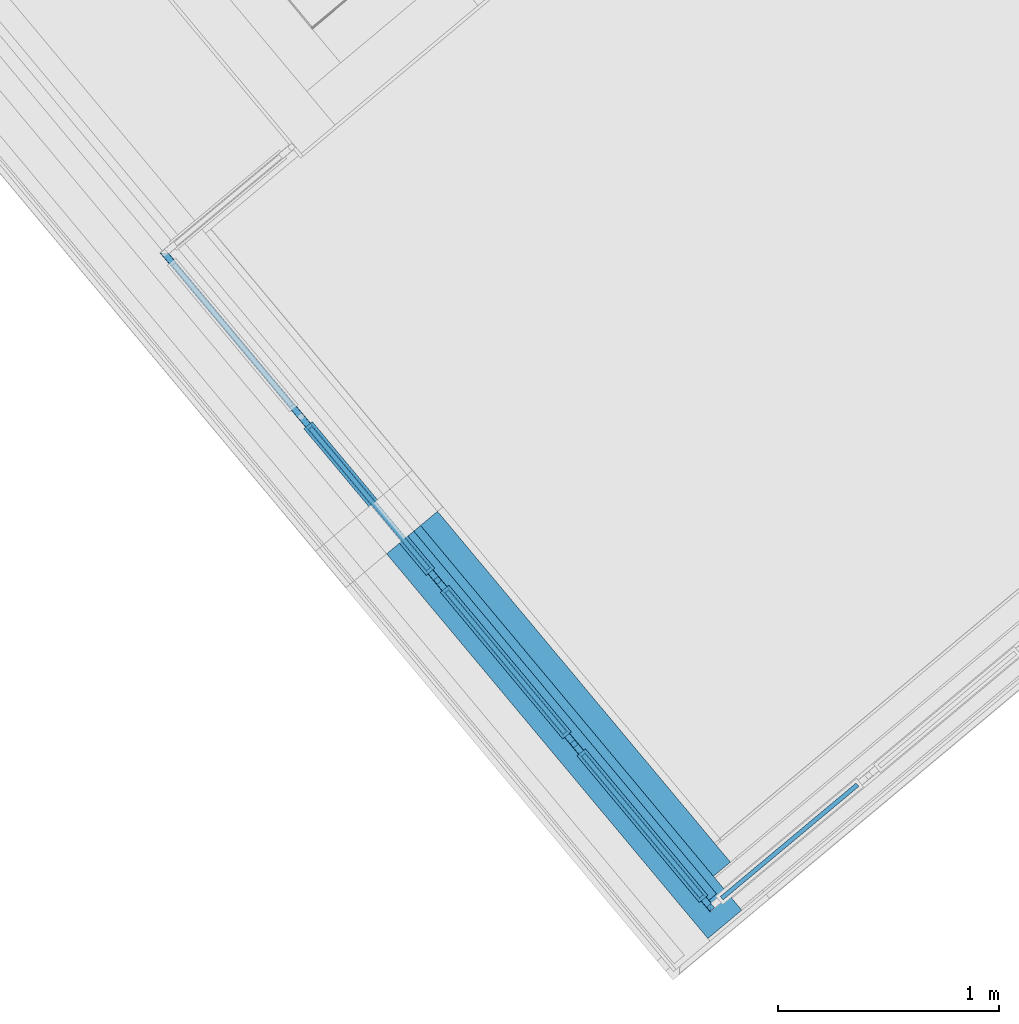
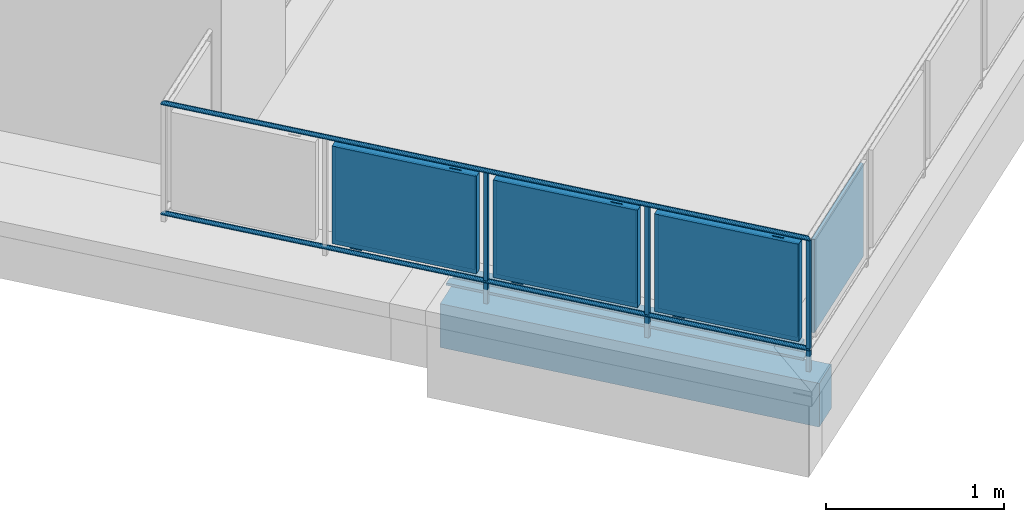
# One storey, part 17 of 61: 15 building element parts, 2 elements without a shape of their own.
"""IFC4 building model written with IfcOpenShell, lengths in metres."""

from ifc_helpers import new_model, entity, si_unit, converted_unit, derived_unit, direction, frame, origin_with_axes, place, context, subcontext, project, spatial, polygons, material, type_object, element, aggregate, save


model = new_model("IFC4")

# Units and contexts
model_context = context("Model", 3, precision=1e-05, world=origin_with_axes(), true_north=direction((0.0, 1.0)))
body_context = subcontext(model_context, "Body", "Model", "MODEL_VIEW")
ifc_project = project(units=[si_unit("LENGTHUNIT", "METRE"), si_unit("AREAUNIT", "SQUARE_METRE"), si_unit("VOLUMEUNIT", "CUBIC_METRE"), converted_unit("PLANEANGLEUNIT", "DEGREE", entity("IfcPlaneAngleMeasure", 0.0174532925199), si_unit("PLANEANGLEUNIT", "RADIAN"), dimensions=[0, 0, 0, 0, 0, 0, 0]), converted_unit("TIMEUNIT", "Year", entity("IfcTimeMeasure", 31556926.0), si_unit("TIMEUNIT", "SECOND"), dimensions=[0, 0, 1, 0, 0, 0, 0]), si_unit("MASSUNIT", "GRAM", prefix="KILO"), si_unit("THERMODYNAMICTEMPERATUREUNIT", "DEGREE_CELSIUS"), si_unit("LUMINOUSINTENSITYUNIT", "LUMEN"), si_unit("ENERGYUNIT", "JOULE", prefix="MEGA"), derived_unit("THERMALCONDUCTANCEUNIT", [(si_unit("POWERUNIT", "WATT"), 1), (si_unit("LENGTHUNIT", "METRE"), -1), (si_unit("THERMODYNAMICTEMPERATUREUNIT", "KELVIN"), -1)]), derived_unit("SPECIFICHEATCAPACITYUNIT", [(si_unit("ENERGYUNIT", "JOULE"), 1), (si_unit("MASSUNIT", "GRAM", prefix="KILO"), -1), (si_unit("THERMODYNAMICTEMPERATUREUNIT", "KELVIN"), -1)]), derived_unit("MASSDENSITYUNIT", [(si_unit("MASSUNIT", "GRAM", prefix="KILO"), 1), (si_unit("VOLUMEUNIT", "CUBIC_METRE"), -1)])], contexts=[model_context])

# Site, building, storey
site_placement = place(None, frame((-0.00153261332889, -0.00661245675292, 0.0), z_axis=(0.0, 0.0, 1.0), x_axis=(1.0, 0.0, 0.0)))
site = spatial("IfcSite", under=ifc_project, at=site_placement, Name="Gelände", CompositionType="ELEMENT")
building_placement = place(site_placement, origin_with_axes())
building = spatial("IfcBuilding", under=site, at=building_placement, Name="Gebäude", CompositionType="ELEMENT")
storey_placement = place(building_placement, frame((0.0, 0.0, 5.7), z_axis=(0.0, 0.0, 1.0), x_axis=(1.0, 0.0, 0.0)))
storey = spatial("IfcBuildingStorey", under=building, at=storey_placement, Name="DG1", CompositionType="ELEMENT", Elevation=5.7)

# Wall, building element parts
wall_type = type_object("IfcWallType", Name="Balkon Dämmung runter 574 x 610", PredefinedType="NOTDEFINED")
wall_placement = place(storey_placement, frame((-0.869246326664, 8.34153645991, -0.2), z_axis=(0.0, 0.0, 1.0), x_axis=(0.640952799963, -0.767580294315, 0.0)))
wall = element("IfcWall", 1, at=wall_placement, inside=storey, type_object=wall_type, Name="Wand-004", PredefinedType="NOTDEFINED")
ifc_material_1 = material(Name="EPS 1")
building_element_part_1_placement = place(wall_placement, origin_with_axes())
building_element_part_1 = element("IfcBuildingElementPart", 2, at=building_element_part_1_placement, material=ifc_material_1, Name="EPS 1", PredefinedType="NOTDEFINED", context=body_context, shape_type="Tessellation", body=[
    polygons([(2.06886445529, 0.199999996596, 0.33500000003), (6.64236852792e-05, 0.199999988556, 0.335000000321), (9.9635535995e-05, 0.300000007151, 0.335000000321), (2.06881889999, 0.300000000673, 0.33500000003), (2.06886445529, 0.199999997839, 0.488695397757), (2.06886445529, 0.199999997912, 0.491006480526), (2.06886445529, 0.199999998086, 0.496604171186), (2.06886445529, 0.199999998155, 0.498822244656), (2.06886445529, 0.199999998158, 0.498915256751), (2.06886445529, 0.199999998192, 0.500000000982), (2.06886445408, 0.199999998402, 0.506731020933), (2.0688644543, 0.199999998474, 0.509050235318), (2.0688644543, 0.199999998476, 0.509099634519), (2.0688644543, 0.199999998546, 0.51136132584), (2.0688644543, 0.199999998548, 0.511410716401), (2.0688644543, 0.199999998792, 0.519224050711), (2.0688644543, 0.199999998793, 0.519273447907), (2.0688644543, 0.200000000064, 0.560000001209), (6.64236890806e-05, 0.2, 0.560000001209), (9.963553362e-05, 0.3, 0.560000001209), (9.9635535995e-05, 0.300000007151, 0.488695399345), (2.068818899, 0.299999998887, 0.560000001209), (2.068818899, 0.299999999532, 0.519273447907), (2.068818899, 0.299999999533, 0.519224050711), (2.068818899, 0.299999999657, 0.511410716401), (2.068818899, 0.299999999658, 0.51136132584), (2.068818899, 0.299999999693, 0.509099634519), (2.068818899, 0.299999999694, 0.509050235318), (2.06881889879, 0.299999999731, 0.506731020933), (2.06881889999, 0.299999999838, 0.500000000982), (2.06881889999, 0.299999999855, 0.498915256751), (2.06881889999, 0.299999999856, 0.498822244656), (2.06881889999, 0.299999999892, 0.496604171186), (2.06881889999, 0.29999999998, 0.491006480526), (2.06881889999, 0.300000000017, 0.488695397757)], [[[1, 2, 3, 4]], [[1, 5, 6, 7, 8, 9, 10, 11, 12, 13, 14, 15, 16, 17, 18, 19, 2]], [[2, 19, 20, 21, 3]], [[3, 21, 20, 22, 23, 24, 25, 26, 27, 28, 29, 30, 31, 32, 33, 34, 35, 4]], [[5, 1, 4, 35]], [[6, 5, 35, 34]], [[7, 6, 34, 33]], [[8, 7, 33, 32]], [[9, 8, 32, 31]], [[10, 9, 31, 30]], [[11, 10, 30, 29]], [[12, 11, 29, 28]], [[13, 12, 28, 27]], [[14, 13, 27, 26]], [[15, 14, 26, 25]], [[16, 15, 25, 24]], [[17, 16, 24, 23]], [[18, 17, 23, 22]], [[19, 18, 22, 20]]], closed=True),
])
ifc_material_2 = material(Name="Vollholz")
building_element_part_2_placement = place(wall_placement, origin_with_axes())
building_element_part_2 = element("IfcBuildingElementPart", 3, at=building_element_part_2_placement, material=ifc_material_2, Name="Vollholz", PredefinedType="NOTDEFINED", context=body_context, shape_type="Tessellation", body=[
    polygons([(3.32118445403e-05, 0.1, 0.560000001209), (2.13905292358, 0.1, 0.560000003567), (2.13905292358, 0.1, 0.567947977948), (2.13905292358, 0.1, 0.573880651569), (2.13905292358, 0.1, 0.575576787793), (2.13905292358, 0.1, 0.575979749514), (3.32118445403e-05, 0.1, 0.575979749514), (5.3138951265e-05, 0.16, 0.560000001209), (2.1390255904, 0.160000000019, 0.560000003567), (2.13902556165, 0.160063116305, 0.567947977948), (2.13902554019, 0.160110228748, 0.573880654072), (2.13904766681, 0.11153931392, 0.575576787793), (5.31755602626e-05, 0.160110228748, 0.573880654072)], [[[1, 2, 3, 4, 5, 6, 7]], [[2, 1, 8, 9]], [[3, 2, 9, 10]], [[4, 3, 10, 11]], [[5, 4, 11, 12]], [[12, 6, 5]], [[7, 6, 12, 11, 13]], [[8, 1, 7, 13]], [[8, 13, 11, 10, 9]]], closed=True),
])
ifc_material_3 = material(Name="Stahlbeton")
building_element_part_3_placement = place(wall_placement, origin_with_axes())
building_element_part_3 = element("IfcBuildingElementPart", 4, at=building_element_part_3_placement, material=ifc_material_3, Name="Stahlbeton", PredefinedType="NOTDEFINED", context=body_context, shape_type="Tessellation", body=[
    polygons([(2.26895554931, -2.73519074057e-09, 0.500000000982), (2.26886443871, 0.199999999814, 0.500000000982), (6.64236890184e-05, 0.199999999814, 0.500000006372), (0.0, -2.73519074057e-09, 0.499999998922), (2.26886443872, 0.199999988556, 0.498915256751), (2.26895554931, -2.73519074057e-09, 0.498915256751), (2.26886443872, 0.199999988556, 0.498822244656), (2.26886443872, 0.199999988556, 0.496604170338), (2.26886443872, 0.199999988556, 0.491006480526), (2.26886443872, 0.199999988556, 0.488695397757), (2.26886443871, 0.19999999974, 0.334999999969), (6.64236852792e-05, 0.199999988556, 0.335000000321), (0.0, -2.73518985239e-09, 0.2), (6.64236891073e-05, 0.200000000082, 0.2), (2.26895554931, -2.73519074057e-09, 0.2), (2.26895554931, -2.73519074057e-09, 0.334999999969), (2.26895554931, -2.73519074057e-09, 0.488695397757), (2.26895554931, -2.73519074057e-09, 0.491006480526), (2.26895554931, -2.73519074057e-09, 0.496604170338), (2.26895554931, -2.73519074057e-09, 0.498822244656), (2.26886443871, 0.199999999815, 0.2)], [[[1, 2, 3, 4]], [[5, 2, 1, 6]], [[2, 5, 7, 8, 9, 10, 11, 12, 3]], [[13, 4, 3, 12, 14]], [[6, 1, 4, 13, 15, 16, 17, 18, 19, 20]], [[5, 6, 20, 7]], [[7, 20, 19, 8]], [[8, 19, 18, 9]], [[9, 18, 17, 10]], [[10, 17, 16, 11]], [[11, 21, 14, 12]], [[21, 15, 13, 14]], [[11, 16, 15, 21]]], closed=True),
])
aggregate(wall, [building_element_part_1, building_element_part_2, building_element_part_3])

# Space
space_placement = place(storey_placement, frame((-1.65459986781, 9.80045444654, 0.22), z_axis=(0.0, 0.0, 1.0), x_axis=(0.640908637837, -0.767617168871, 0.0)))
space = spatial("IfcSpace", under=storey, at=space_placement, CompositionType="ELEMENT", PredefinedType="NOTDEFINED")

# Railing, building element parts
railing_type = type_object("IfcRailingType", Name="Geländerart", PredefinedType="NOTDEFINED")
railing_placement = place(space_placement, frame((-0.0155551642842, 0.517171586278, 0.16), z_axis=(0.0, 0.0, 1.0), x_axis=(0.640908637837, 0.767617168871, 0.0)))
railing = element("IfcRailing", 5, at=railing_placement, inside=space, type_object=railing_type, Name="Geländer - 001", PredefinedType="NOTDEFINED")
ifc_material_4 = material(Name="Aluminium")
building_element_part_4_placement = place(railing_placement, origin_with_axes())
building_element_part_4 = element("IfcBuildingElementPart", 6, at=building_element_part_4_placement, material=ifc_material_4, Name="Aluminium", PredefinedType="NOTDEFINED", context=body_context, shape_type="Tessellation", body=[
    polygons([(1.8636712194, -3.42062701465, -0.3), (1.88286164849, -3.40460429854, -0.3), (1.88286164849, -3.40460429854, 0.82), (1.8636712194, -3.42062701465, 0.82), (1.84764850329, -3.40143658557, -0.3), (1.86683893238, -3.38541386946, -0.3), (1.86683893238, -3.38541386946, 0.82), (1.84764850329, -3.40143658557, 0.82)], [[[1, 2, 3, 4]], [[1, 5, 6, 2]], [[2, 6, 7, 3]], [[4, 3, 7, 8]], [[5, 1, 4, 8]], [[6, 5, 8, 7]]], closed=True),
])
building_element_part_5_placement = place(railing_placement, origin_with_axes())
building_element_part_5 = element("IfcBuildingElementPart", 7, at=building_element_part_5_placement, material=ifc_material_4, Name="Aluminium", PredefinedType="NOTDEFINED", context=body_context, shape_type="Tessellation", body=[
    polygons([(-0.586034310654, -0.443703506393, 0.825), (-0.586355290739, -0.443674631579, 0.827604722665), (1.86712331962, -3.38220933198, 0.827604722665), (1.86715214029, -3.38188828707, 0.825), (-0.586355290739, -0.443674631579, 0.822395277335), (-0.587308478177, -0.443588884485, 0.81986969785), (-0.588864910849, -0.443448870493, 0.8175), (-0.590977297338, -0.443258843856, 0.815358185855), (-0.593581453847, -0.443024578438, 0.813509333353), (-0.5965982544, -0.442753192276, 0.812009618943), (-0.599936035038, -0.4424529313, 0.810904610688), (-0.603493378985, -0.442132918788, 0.810227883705), (-0.607162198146, -0.441802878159, 0.81), (-0.610831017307, -0.441472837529, 0.810227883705), (-0.614388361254, -0.441152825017, 0.810904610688), (-0.617726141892, -0.440852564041, 0.812009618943), (-0.620742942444, -0.440581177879, 0.813509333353), (-0.623347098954, -0.440346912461, 0.815358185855), (-0.625459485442, -0.440156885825, 0.8175), (-0.627015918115, -0.440016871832, 0.81986969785), (-0.627969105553, -0.439931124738, 0.822395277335), (-0.628290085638, -0.439902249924, 0.825), (-0.627969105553, -0.439931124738, 0.827604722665), (-0.627015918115, -0.440016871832, 0.83013030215), (-0.625459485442, -0.440156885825, 0.8325), (-0.623347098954, -0.440346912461, 0.834641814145), (-0.620742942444, -0.440581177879, 0.836490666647), (-0.617726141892, -0.440852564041, 0.837990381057), (-0.614388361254, -0.441152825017, 0.839095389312), (-0.610831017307, -0.441472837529, 0.839772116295), (-0.607162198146, -0.441802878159, 0.84), (-0.603493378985, -0.442132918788, 0.839772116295), (-0.599936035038, -0.4424529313, 0.839095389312), (-0.5965982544, -0.442753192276, 0.837990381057), (-0.593581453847, -0.443024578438, 0.836490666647), (-0.590977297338, -0.443258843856, 0.834641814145), (-0.588864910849, -0.443448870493, 0.8325), (-0.587308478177, -0.443588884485, 0.83013030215), (1.86703773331, -3.38316271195, 0.83013030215), (1.86689798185, -3.384719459, 0.8325), (1.86670831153, -3.38683227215, 0.834641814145), (1.86647448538, -3.38943695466, 0.836490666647), (1.86620360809, -3.39245436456, 0.837990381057), (1.86590391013, -3.39579281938, 0.839095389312), (1.86558449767, -3.39935088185, 0.839772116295), (1.86525507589, -3.40302044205, 0.84), (1.86492565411, -3.40669000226, 0.839772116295), (1.86460624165, -3.41024806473, 0.839095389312), (1.86430654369, -3.41358651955, 0.837990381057), (1.8640356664, -3.41660392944, 0.836490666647), (1.86380184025, -3.41920861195, 0.834641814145), (1.86361216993, -3.42132142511, 0.8325), (1.86347241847, -3.42287817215, 0.83013030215), (1.86338683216, -3.42383155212, 0.827604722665), (1.86335801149, -3.42415259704, 0.825), (1.86338683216, -3.42383155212, 0.822395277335), (1.86347241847, -3.42287817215, 0.81986969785), (1.86361216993, -3.42132142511, 0.8175), (1.86380184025, -3.41920861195, 0.815358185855), (1.8640356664, -3.41660392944, 0.813509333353), (1.86430654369, -3.41358651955, 0.812009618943), (1.86460624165, -3.41024806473, 0.810904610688), (1.86492565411, -3.40669000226, 0.810227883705), (1.86525507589, -3.40302044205, 0.81), (1.86558449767, -3.39935088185, 0.810227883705), (1.86590391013, -3.39579281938, 0.810904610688), (1.86620360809, -3.39245436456, 0.812009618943), (1.86647448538, -3.38943695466, 0.813509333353), (1.86670831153, -3.38683227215, 0.815358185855), (1.86689798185, -3.384719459, 0.8175), (1.86703773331, -3.38316271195, 0.81986969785), (1.86712331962, -3.38220933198, 0.822395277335)], [[[1, 2, 3, 4]], [[1, 5, 6, 7, 8, 9, 10, 11, 12, 13, 14, 15, 16, 17, 18, 19, 20, 21, 22, 23, 24, 25, 26, 27, 28, 29, 30, 31, 32, 33, 34, 35, 36, 37, 38, 2]], [[2, 38, 39, 3]], [[4, 3, 39, 40, 41, 42, 43, 44, 45, 46, 47, 48, 49, 50, 51, 52, 53, 54, 55, 56, 57, 58, 59, 60, 61, 62, 63, 64, 65, 66, 67, 68, 69, 70, 71, 72]], [[5, 1, 4, 72]], [[6, 5, 72, 71]], [[7, 6, 71, 70]], [[8, 7, 70, 69]], [[9, 8, 69, 68]], [[10, 9, 68, 67]], [[11, 10, 67, 66]], [[12, 11, 66, 65]], [[13, 12, 65, 64]], [[14, 13, 64, 63]], [[15, 14, 63, 62]], [[16, 15, 62, 61]], [[17, 16, 61, 60]], [[18, 17, 60, 59]], [[19, 18, 59, 58]], [[20, 19, 58, 57]], [[21, 20, 57, 56]], [[22, 21, 56, 55]], [[23, 22, 55, 54]], [[24, 23, 54, 53]], [[25, 24, 53, 52]], [[26, 25, 52, 51]], [[27, 26, 51, 50]], [[28, 27, 50, 49]], [[29, 28, 49, 48]], [[30, 29, 48, 47]], [[31, 30, 47, 46]], [[32, 31, 46, 45]], [[33, 32, 45, 44]], [[34, 33, 44, 43]], [[35, 34, 43, 42]], [[36, 35, 42, 41]], [[37, 36, 41, 40]], [[38, 37, 40, 39]]], closed=True),
])
building_element_part_6_placement = place(railing_placement, origin_with_axes())
building_element_part_6 = element("IfcBuildingElementPart", 8, at=building_element_part_6_placement, material=ifc_material_4, Name="Aluminium", PredefinedType="NOTDEFINED", context=body_context, shape_type="Tessellation", body=[
    polygons([(-0.586034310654, -0.443703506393, 0.07), (-0.586355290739, -0.443674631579, 0.072604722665), (1.86712331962, -3.38220933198, 0.072604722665), (1.86715214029, -3.38188828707, 0.07), (-0.586355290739, -0.443674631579, 0.067395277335), (-0.587308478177, -0.443588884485, 0.0648696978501), (-0.588864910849, -0.443448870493, 0.0625), (-0.590977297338, -0.443258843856, 0.0603581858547), (-0.593581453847, -0.443024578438, 0.0585093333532), (-0.5965982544, -0.442753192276, 0.0570096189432), (-0.599936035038, -0.4424529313, 0.0559046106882), (-0.603493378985, -0.442132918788, 0.0552278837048), (-0.607162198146, -0.441802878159, 0.055), (-0.610831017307, -0.441472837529, 0.0552278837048), (-0.614388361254, -0.441152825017, 0.0559046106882), (-0.617726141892, -0.440852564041, 0.0570096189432), (-0.620742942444, -0.440581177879, 0.0585093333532), (-0.623347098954, -0.440346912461, 0.0603581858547), (-0.625459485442, -0.440156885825, 0.0625), (-0.627015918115, -0.440016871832, 0.0648696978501), (-0.627969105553, -0.439931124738, 0.067395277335), (-0.628290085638, -0.439902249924, 0.07), (-0.627969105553, -0.439931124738, 0.072604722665), (-0.627015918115, -0.440016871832, 0.0751303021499), (-0.625459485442, -0.440156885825, 0.0775), (-0.623347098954, -0.440346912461, 0.0796418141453), (-0.620742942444, -0.440581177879, 0.0814906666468), (-0.617726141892, -0.440852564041, 0.0829903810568), (-0.614388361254, -0.441152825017, 0.0840953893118), (-0.610831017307, -0.441472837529, 0.0847721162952), (-0.607162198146, -0.441802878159, 0.085), (-0.603493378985, -0.442132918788, 0.0847721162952), (-0.599936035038, -0.4424529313, 0.0840953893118), (-0.5965982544, -0.442753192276, 0.0829903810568), (-0.593581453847, -0.443024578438, 0.0814906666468), (-0.590977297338, -0.443258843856, 0.0796418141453), (-0.588864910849, -0.443448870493, 0.0775), (-0.587308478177, -0.443588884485, 0.0751303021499), (1.86703773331, -3.38316271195, 0.0751303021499), (1.86689798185, -3.384719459, 0.0775), (1.86670831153, -3.38683227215, 0.0796418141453), (1.86647448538, -3.38943695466, 0.0814906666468), (1.86620360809, -3.39245436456, 0.0829903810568), (1.86590391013, -3.39579281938, 0.0840953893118), (1.86558449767, -3.39935088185, 0.0847721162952), (1.86525507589, -3.40302044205, 0.085), (1.86492565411, -3.40669000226, 0.0847721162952), (1.86460624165, -3.41024806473, 0.0840953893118), (1.86430654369, -3.41358651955, 0.0829903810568), (1.8640356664, -3.41660392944, 0.0814906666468), (1.86380184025, -3.41920861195, 0.0796418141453), (1.86361216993, -3.42132142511, 0.0775), (1.86347241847, -3.42287817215, 0.0751303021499), (1.86338683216, -3.42383155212, 0.072604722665), (1.86335801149, -3.42415259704, 0.07), (1.86338683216, -3.42383155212, 0.067395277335), (1.86347241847, -3.42287817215, 0.0648696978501), (1.86361216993, -3.42132142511, 0.0625), (1.86380184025, -3.41920861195, 0.0603581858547), (1.8640356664, -3.41660392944, 0.0585093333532), (1.86430654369, -3.41358651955, 0.0570096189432), (1.86460624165, -3.41024806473, 0.0559046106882), (1.86492565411, -3.40669000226, 0.0552278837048), (1.86525507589, -3.40302044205, 0.055), (1.86558449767, -3.39935088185, 0.0552278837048), (1.86590391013, -3.39579281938, 0.0559046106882), (1.86620360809, -3.39245436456, 0.0570096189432), (1.86647448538, -3.38943695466, 0.0585093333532), (1.86670831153, -3.38683227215, 0.0603581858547), (1.86689798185, -3.384719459, 0.0625), (1.86703773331, -3.38316271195, 0.0648696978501), (1.86712331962, -3.38220933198, 0.067395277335)], [[[1, 2, 3, 4]], [[1, 5, 6, 7, 8, 9, 10, 11, 12, 13, 14, 15, 16, 17, 18, 19, 20, 21, 22, 23, 24, 25, 26, 27, 28, 29, 30, 31, 32, 33, 34, 35, 36, 37, 38, 2]], [[2, 38, 39, 3]], [[4, 3, 39, 40, 41, 42, 43, 44, 45, 46, 47, 48, 49, 50, 51, 52, 53, 54, 55, 56, 57, 58, 59, 60, 61, 62, 63, 64, 65, 66, 67, 68, 69, 70, 71, 72]], [[5, 1, 4, 72]], [[6, 5, 72, 71]], [[7, 6, 71, 70]], [[8, 7, 70, 69]], [[9, 8, 69, 68]], [[10, 9, 68, 67]], [[11, 10, 67, 66]], [[12, 11, 66, 65]], [[13, 12, 65, 64]], [[14, 13, 64, 63]], [[15, 14, 63, 62]], [[16, 15, 62, 61]], [[17, 16, 61, 60]], [[18, 17, 60, 59]], [[19, 18, 59, 58]], [[20, 19, 58, 57]], [[21, 20, 57, 56]], [[22, 21, 56, 55]], [[23, 22, 55, 54]], [[24, 23, 54, 53]], [[25, 24, 53, 52]], [[26, 25, 52, 51]], [[27, 26, 51, 50]], [[28, 27, 50, 49]], [[29, 28, 49, 48]], [[30, 29, 48, 47]], [[31, 30, 47, 46]], [[32, 31, 46, 45]], [[33, 32, 45, 44]], [[34, 33, 44, 43]], [[35, 34, 43, 42]], [[36, 35, 42, 41]], [[37, 36, 41, 40]], [[38, 37, 40, 39]]], closed=True),
])
ifc_material_5 = material(Name="Profilit")
building_element_part_7_placement = place(railing_placement, origin_with_axes())
building_element_part_7 = element("IfcBuildingElementPart", 9, at=building_element_part_7_placement, material=ifc_material_5, Name="Profilit", PredefinedType="NOTDEFINED", context=body_context, shape_type="Tessellation", body=[
    polygons([(0.595063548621, -1.86610745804, 0.135), (0.0602773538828, -1.22559329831, 0.135), (0.0602773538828, -1.22559329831, 0.775), (0.595063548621, -1.86610745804, 0.775), (0.0449250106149, -1.2384114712, 0.135), (0.579711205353, -1.87892563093, 0.135), (0.0449250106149, -1.2384114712, 0.775), (0.579711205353, -1.87892563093, 0.775)], [[[1, 2, 3, 4]], [[5, 2, 1, 6]], [[7, 3, 2, 5]], [[4, 3, 7, 8]], [[1, 4, 8, 6]], [[7, 5, 6, 8]]], closed=True),
])
building_element_part_8_placement = place(railing_placement, origin_with_axes())
building_element_part_8 = element("IfcBuildingElementPart", 10, at=building_element_part_8_placement, material=ifc_material_4, Name="Aluminium", PredefinedType="NOTDEFINED", context=body_context, shape_type="Tessellation", body=[
    polygons([(0.108997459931, -1.29564757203, 0.12), (0.153861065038, -1.34938077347, 0.12), (0.153861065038, -1.34938077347, 0.095), (0.108997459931, -1.29564757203, 0.095), (0.105159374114, -1.29885211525, 0.12), (0.150022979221, -1.35258531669, 0.12), (0.150022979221, -1.35258531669, 0.095), (0.105159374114, -1.29885211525, 0.095)], [[[1, 2, 3, 4]], [[5, 6, 2, 1]], [[2, 6, 7, 3]], [[4, 3, 7, 8]], [[1, 4, 8, 5]], [[8, 7, 6, 5]]], closed=True),
    polygons([(0.534829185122, -1.80566681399, 0.79), (0.489965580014, -1.75193361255, 0.79), (0.489965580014, -1.75193361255, 0.795), (0.534829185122, -1.80566681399, 0.795), (0.530991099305, -1.80887135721, 0.79), (0.486127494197, -1.75513815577, 0.79), (0.486127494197, -1.75513815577, 0.795), (0.530991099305, -1.80887135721, 0.795)], [[[1, 2, 3, 4]], [[5, 6, 2, 1]], [[2, 6, 7, 3]], [[4, 3, 7, 8]], [[1, 4, 8, 5]], [[8, 7, 6, 5]]], closed=True),
    polygons([(0.023797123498, -1.23651084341, 0.12), (0.0621779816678, -1.20446541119, 0.12), (0.616191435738, -1.86800808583, 0.12), (0.577810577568, -1.90005351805, 0.12), (0.0366152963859, -1.25186318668, 0.14), (0.0481295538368, -1.24224955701, 0.14), (0.0449250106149, -1.2384114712, 0.135), (0.0602773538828, -1.22559329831, 0.135), (0.0634818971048, -1.22943138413, 0.14), (0.0749961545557, -1.21981775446, 0.14), (0.60337326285, -1.85265574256, 0.14), (0.60337326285, -1.85265574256, 0.77), (0.0749961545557, -1.21981775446, 0.77), (0.0749961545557, -1.21981775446, 0.14), (0.0621779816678, -1.20446541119, 0.12), (0.0621779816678, -1.20446541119, 0.79), (0.616191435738, -1.86800808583, 0.79), (0.577810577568, -1.90005351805, 0.79), (0.023797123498, -1.23651084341, 0.79), (0.023797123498, -1.23651084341, 0.12), (0.0366152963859, -1.25186318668, 0.14), (0.0366152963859, -1.25186318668, 0.77), (0.56499240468, -1.88470117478, 0.77), (0.56499240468, -1.88470117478, 0.14), (0.576506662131, -1.87508754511, 0.14), (0.576506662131, -1.87508754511, 0.77), (0.0481295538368, -1.24224955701, 0.77), (0.0481295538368, -1.24224955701, 0.14), (0.0449250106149, -1.2384114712, 0.135), (0.0449250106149, -1.2384114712, 0.775), (0.579711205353, -1.87892563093, 0.775), (0.579711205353, -1.87892563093, 0.135), (0.595063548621, -1.86610745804, 0.135), (0.595063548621, -1.86610745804, 0.775), (0.0602773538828, -1.22559329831, 0.775), (0.0602773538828, -1.22559329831, 0.135), (0.0634818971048, -1.22943138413, 0.14), (0.0634818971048, -1.22943138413, 0.77), (0.591859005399, -1.86226937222, 0.77), (0.591859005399, -1.86226937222, 0.14)], [[[1, 2, 3, 4]], [[1, 5, 6, 7, 8, 9, 10, 2]], [[2, 10, 11, 12, 13, 14, 15, 16, 17, 3]], [[4, 3, 17, 18]], [[5, 1, 4, 18, 19, 20, 21, 22, 23, 24]], [[6, 5, 24, 25]], [[7, 6, 25, 26, 27, 28, 29, 30, 31, 32]], [[8, 7, 32, 33]], [[9, 8, 33, 34, 35, 36, 37, 38, 39, 40]], [[10, 9, 40, 11]], [[11, 40, 39, 12]], [[12, 39, 38, 13]], [[13, 38, 37, 14]], [[20, 15, 14, 37, 36, 29, 28, 21]], [[19, 16, 15, 20]], [[18, 17, 16, 19]], [[27, 22, 21, 28]], [[26, 23, 22, 27]], [[25, 24, 23, 26]], [[35, 30, 29, 36]], [[34, 31, 30, 35]], [[33, 32, 31, 34]]], closed=True),
])
building_element_part_9_placement = place(railing_placement, origin_with_axes())
building_element_part_9 = element("IfcBuildingElementPart", 11, at=building_element_part_9_placement, material=ifc_material_4, Name="Aluminium", PredefinedType="NOTDEFINED", context=body_context, shape_type="Tessellation", body=[
    polygons([(0.627462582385, -1.9400182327, -0.3), (0.64665301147, -1.92399551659, -0.3), (0.64665301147, -1.92399551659, 0.82), (0.627462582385, -1.9400182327, 0.82), (0.611439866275, -1.92082780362, -0.3), (0.63063029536, -1.90480508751, -0.3), (0.63063029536, -1.90480508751, 0.82), (0.611439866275, -1.92082780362, 0.82)], [[[1, 2, 3, 4]], [[1, 5, 6, 2]], [[2, 6, 7, 3]], [[4, 3, 7, 8]], [[5, 1, 4, 8]], [[6, 5, 8, 7]]], closed=True),
])
building_element_part_10_placement = place(railing_placement, origin_with_axes())
building_element_part_10 = element("IfcBuildingElementPart", 12, at=building_element_part_10_placement, material=ifc_material_5, Name="Profilit", PredefinedType="NOTDEFINED", context=body_context, shape_type="Tessellation", body=[
    polygons([(1.21316786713, -2.60641184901, 0.135), (0.678381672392, -1.96589768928, 0.135), (0.678381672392, -1.96589768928, 0.775), (1.21316786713, -2.60641184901, 0.775), (0.663029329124, -1.97871586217, 0.135), (1.19781552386, -2.6192300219, 0.135), (0.663029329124, -1.97871586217, 0.775), (1.19781552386, -2.6192300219, 0.775)], [[[1, 2, 3, 4]], [[5, 2, 1, 6]], [[7, 3, 2, 5]], [[4, 3, 7, 8]], [[1, 4, 8, 6]], [[7, 5, 6, 8]]], closed=True),
])
building_element_part_11_placement = place(railing_placement, origin_with_axes())
building_element_part_11 = element("IfcBuildingElementPart", 13, at=building_element_part_11_placement, material=ifc_material_4, Name="Aluminium", PredefinedType="NOTDEFINED", context=body_context, shape_type="Tessellation", body=[
    polygons([(0.72710177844, -2.035951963, 0.12), (0.771965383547, -2.08968516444, 0.12), (0.771965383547, -2.08968516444, 0.095), (0.72710177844, -2.035951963, 0.095), (0.723263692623, -2.03915650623, 0.12), (0.76812729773, -2.09288970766, 0.12), (0.76812729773, -2.09288970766, 0.095), (0.723263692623, -2.03915650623, 0.095)], [[[1, 2, 3, 4]], [[5, 6, 2, 1]], [[2, 6, 7, 3]], [[4, 3, 7, 8]], [[1, 4, 8, 5]], [[8, 7, 6, 5]]], closed=True),
    polygons([(1.15293350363, -2.54597120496, 0.79), (1.10806989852, -2.49223800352, 0.79), (1.10806989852, -2.49223800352, 0.795), (1.15293350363, -2.54597120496, 0.795), (1.14909541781, -2.54917574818, 0.79), (1.10423181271, -2.49544254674, 0.79), (1.10423181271, -2.49544254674, 0.795), (1.14909541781, -2.54917574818, 0.795)], [[[1, 2, 3, 4]], [[5, 6, 2, 1]], [[2, 6, 7, 3]], [[4, 3, 7, 8]], [[1, 4, 8, 5]], [[8, 7, 6, 5]]], closed=True),
    polygons([(0.641901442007, -1.97681523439, 0.12), (0.680282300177, -1.94476980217, 0.12), (1.23429575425, -2.6083124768, 0.12), (1.19591489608, -2.64035790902, 0.12), (0.654719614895, -1.99216757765, 0.14), (0.666233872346, -1.98255394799, 0.14), (0.663029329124, -1.97871586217, 0.135), (0.678381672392, -1.96589768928, 0.135), (0.681586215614, -1.9697357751, 0.14), (0.693100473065, -1.96012214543, 0.14), (1.22147758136, -2.59296013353, 0.14), (1.22147758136, -2.59296013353, 0.77), (0.693100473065, -1.96012214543, 0.77), (0.693100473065, -1.96012214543, 0.14), (0.680282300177, -1.94476980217, 0.12), (0.680282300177, -1.94476980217, 0.79), (1.23429575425, -2.6083124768, 0.79), (1.19591489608, -2.64035790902, 0.79), (0.641901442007, -1.97681523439, 0.79), (0.641901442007, -1.97681523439, 0.12), (0.654719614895, -1.99216757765, 0.14), (0.654719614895, -1.99216757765, 0.77), (1.18309672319, -2.62500556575, 0.77), (1.18309672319, -2.62500556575, 0.14), (1.19461098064, -2.61539193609, 0.14), (1.19461098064, -2.61539193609, 0.77), (0.666233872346, -1.98255394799, 0.77), (0.666233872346, -1.98255394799, 0.14), (0.663029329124, -1.97871586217, 0.135), (0.663029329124, -1.97871586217, 0.775), (1.19781552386, -2.6192300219, 0.775), (1.19781552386, -2.6192300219, 0.135), (1.21316786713, -2.60641184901, 0.135), (1.21316786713, -2.60641184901, 0.775), (0.678381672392, -1.96589768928, 0.775), (0.678381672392, -1.96589768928, 0.135), (0.681586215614, -1.9697357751, 0.14), (0.681586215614, -1.9697357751, 0.77), (1.20996332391, -2.6025737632, 0.77), (1.20996332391, -2.6025737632, 0.14)], [[[1, 2, 3, 4]], [[1, 5, 6, 7, 8, 9, 10, 2]], [[2, 10, 11, 12, 13, 14, 15, 16, 17, 3]], [[4, 3, 17, 18]], [[5, 1, 4, 18, 19, 20, 21, 22, 23, 24]], [[6, 5, 24, 25]], [[7, 6, 25, 26, 27, 28, 29, 30, 31, 32]], [[8, 7, 32, 33]], [[9, 8, 33, 34, 35, 36, 37, 38, 39, 40]], [[10, 9, 40, 11]], [[11, 40, 39, 12]], [[12, 39, 38, 13]], [[13, 38, 37, 14]], [[20, 15, 14, 37, 36, 29, 28, 21]], [[19, 16, 15, 20]], [[18, 17, 16, 19]], [[27, 22, 21, 28]], [[26, 23, 22, 27]], [[25, 24, 23, 26]], [[35, 30, 29, 36]], [[34, 31, 30, 35]], [[33, 32, 31, 34]]], closed=True),
])
building_element_part_12_placement = place(railing_placement, origin_with_axes())
building_element_part_12 = element("IfcBuildingElementPart", 14, at=building_element_part_12_placement, material=ifc_material_4, Name="Aluminium", PredefinedType="NOTDEFINED", context=body_context, shape_type="Tessellation", body=[
    polygons([(1.24556690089, -2.68032262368, -0.3), (1.26475732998, -2.66429990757, -0.3), (1.26475732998, -2.66429990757, 0.82), (1.24556690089, -2.68032262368, 0.82), (1.22954418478, -2.66113219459, -0.3), (1.24873461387, -2.64510947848, -0.3), (1.24873461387, -2.64510947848, 0.82), (1.22954418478, -2.66113219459, 0.82)], [[[1, 2, 3, 4]], [[1, 5, 6, 2]], [[2, 6, 7, 3]], [[4, 3, 7, 8]], [[5, 1, 4, 8]], [[6, 5, 8, 7]]], closed=True),
])
building_element_part_13_placement = place(railing_placement, origin_with_axes())
building_element_part_13 = element("IfcBuildingElementPart", 15, at=building_element_part_13_placement, material=ifc_material_5, Name="Profilit", PredefinedType="NOTDEFINED", context=body_context, shape_type="Tessellation", body=[
    polygons([(1.83127218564, -3.34671623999, 0.135), (1.2964859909, -2.70620208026, 0.135), (1.2964859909, -2.70620208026, 0.775), (1.83127218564, -3.34671623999, 0.775), (1.28113364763, -2.71902025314, 0.135), (1.81591984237, -3.35953441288, 0.135), (1.28113364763, -2.71902025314, 0.775), (1.81591984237, -3.35953441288, 0.775)], [[[1, 2, 3, 4]], [[5, 2, 1, 6]], [[7, 3, 2, 5]], [[4, 3, 7, 8]], [[1, 4, 8, 6]], [[7, 5, 6, 8]]], closed=True),
])
building_element_part_14_placement = place(railing_placement, origin_with_axes())
building_element_part_14 = element("IfcBuildingElementPart", 16, at=building_element_part_14_placement, material=ifc_material_4, Name="Aluminium", PredefinedType="NOTDEFINED", context=body_context, shape_type="Tessellation", body=[
    polygons([(1.34520609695, -2.77625635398, 0.12), (1.39006970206, -2.82998955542, 0.12), (1.39006970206, -2.82998955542, 0.095), (1.34520609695, -2.77625635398, 0.095), (1.34136801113, -2.7794608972, 0.12), (1.38623161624, -2.83319409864, 0.12), (1.38623161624, -2.83319409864, 0.095), (1.34136801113, -2.7794608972, 0.095)], [[[1, 2, 3, 4]], [[5, 6, 2, 1]], [[2, 6, 7, 3]], [[4, 3, 7, 8]], [[1, 4, 8, 5]], [[8, 7, 6, 5]]], closed=True),
    polygons([(1.77103782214, -3.28627559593, 0.79), (1.72617421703, -3.23254239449, 0.79), (1.72617421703, -3.23254239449, 0.795), (1.77103782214, -3.28627559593, 0.795), (1.76719973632, -3.28948013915, 0.79), (1.72233613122, -3.23574693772, 0.79), (1.72233613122, -3.23574693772, 0.795), (1.76719973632, -3.28948013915, 0.795)], [[[1, 2, 3, 4]], [[5, 6, 2, 1]], [[2, 6, 7, 3]], [[4, 3, 7, 8]], [[1, 4, 8, 5]], [[8, 7, 6, 5]]], closed=True),
    polygons([(1.26000576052, -2.71711962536, 0.12), (1.29838661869, -2.68507419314, 0.12), (1.85240007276, -3.34861686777, 0.12), (1.81401921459, -3.38066229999, 0.12), (1.2728239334, -2.73247196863, 0.14), (1.28433819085, -2.72285833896, 0.14), (1.28113364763, -2.71902025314, 0.135), (1.2964859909, -2.70620208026, 0.135), (1.29969053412, -2.71004016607, 0.14), (1.31120479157, -2.70042653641, 0.14), (1.83958189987, -3.33326452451, 0.14), (1.83958189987, -3.33326452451, 0.77), (1.31120479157, -2.70042653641, 0.77), (1.31120479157, -2.70042653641, 0.14), (1.29838661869, -2.68507419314, 0.12), (1.29838661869, -2.68507419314, 0.79), (1.85240007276, -3.34861686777, 0.79), (1.81401921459, -3.38066229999, 0.79), (1.26000576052, -2.71711962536, 0.79), (1.26000576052, -2.71711962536, 0.12), (1.2728239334, -2.73247196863, 0.14), (1.2728239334, -2.73247196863, 0.77), (1.8012010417, -3.36530995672, 0.77), (1.8012010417, -3.36530995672, 0.14), (1.81271529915, -3.35569632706, 0.14), (1.81271529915, -3.35569632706, 0.77), (1.28433819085, -2.72285833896, 0.77), (1.28433819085, -2.72285833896, 0.14), (1.28113364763, -2.71902025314, 0.135), (1.28113364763, -2.71902025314, 0.775), (1.81591984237, -3.35953441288, 0.775), (1.81591984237, -3.35953441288, 0.135), (1.83127218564, -3.34671623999, 0.135), (1.83127218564, -3.34671623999, 0.775), (1.2964859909, -2.70620208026, 0.775), (1.2964859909, -2.70620208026, 0.135), (1.29969053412, -2.71004016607, 0.14), (1.29969053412, -2.71004016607, 0.77), (1.82806764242, -3.34287815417, 0.77), (1.82806764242, -3.34287815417, 0.14)], [[[1, 2, 3, 4]], [[1, 5, 6, 7, 8, 9, 10, 2]], [[2, 10, 11, 12, 13, 14, 15, 16, 17, 3]], [[4, 3, 17, 18]], [[5, 1, 4, 18, 19, 20, 21, 22, 23, 24]], [[6, 5, 24, 25]], [[7, 6, 25, 26, 27, 28, 29, 30, 31, 32]], [[8, 7, 32, 33]], [[9, 8, 33, 34, 35, 36, 37, 38, 39, 40]], [[10, 9, 40, 11]], [[11, 40, 39, 12]], [[12, 39, 38, 13]], [[13, 38, 37, 14]], [[20, 15, 14, 37, 36, 29, 28, 21]], [[19, 16, 15, 20]], [[18, 17, 16, 19]], [[27, 22, 21, 28]], [[26, 23, 22, 27]], [[25, 24, 23, 26]], [[35, 30, 29, 36]], [[34, 31, 30, 35]], [[33, 32, 31, 34]]], closed=True),
])
building_element_part_15_placement = place(railing_placement, origin_with_axes())
building_element_part_15 = element("IfcBuildingElementPart", 17, at=building_element_part_15_placement, material=ifc_material_5, Name="Profilit", PredefinedType="NOTDEFINED", context=body_context, shape_type="Tessellation", body=[
    polygons([(2.52336612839, -2.84009662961, 0.135), (1.90872281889, -3.3536690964, 0.135), (1.90872281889, -3.3536690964, 0.775), (2.52336612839, -2.84009662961, 0.775), (1.92154668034, -3.36901668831, 0.135), (2.53618998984, -2.85544422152, 0.135), (1.92154668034, -3.36901668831, 0.775), (2.53618998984, -2.85544422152, 0.775)], [[[1, 2, 3, 4]], [[5, 2, 1, 6]], [[7, 3, 2, 5]], [[4, 3, 7, 8]], [[1, 4, 8, 6]], [[7, 5, 6, 8]]], closed=True),
])
aggregate(railing, [building_element_part_4, building_element_part_5, building_element_part_6, building_element_part_7, building_element_part_8, building_element_part_9, building_element_part_10, building_element_part_11, building_element_part_12, building_element_part_13, building_element_part_14, building_element_part_15])

save(model, "model.ifc")
